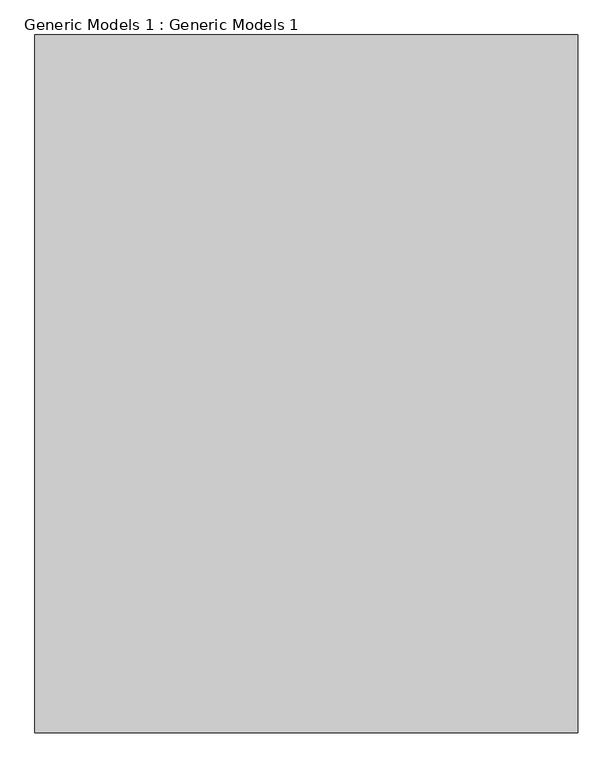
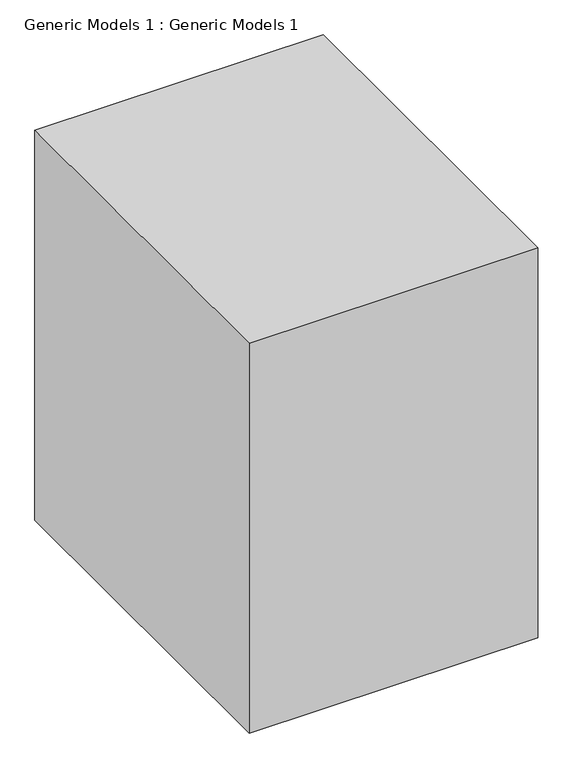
"""IFC4 building model written with IfcOpenShell, lengths in millimetres: proxy geometry, Generic Models 1 : Generic Models 1."""

from ifc_helpers import new_model, si_unit, origin, origin_with_axes, place, context, project, spatial, polyline, outline, extrude, source, transform, mapped, element, save


def generic_models_1_generic_models_1_4ab83a45(model_context):
    return source(origin(), model_context, "Body", "SweptSolid", [
        extrude(outline(polyline([(-12897.1824587, 3778.7758576), (-12897.1824587, 9178.7758576), (-8697.1824587, 9178.7758576), (-8697.1824587, 3778.7758576), (-12897.1824587, 3778.7758576)])), origin_with_axes(), (0.0, 0.0, 1.0), 6000.0),
    ])


if __name__ == "__main__":
    model = new_model("IFC4")
    model_context = context("Model", 3, world=origin())
    ifc_project = project(units=[si_unit("LENGTHUNIT", "METRE", prefix="MILLI")], contexts=[model_context])
    site = spatial("IfcSite", under=ifc_project)
    building = spatial("IfcBuilding", under=site)
    placement = place(None, origin())
    generic_models_1_generic_models_1_shape = generic_models_1_generic_models_1_4ab83a45(model_context)
    element("IfcBuildingElementProxy", 1, Name="Generic Models 1 : Generic Models 1", ObjectType="Generic Models 1 : Generic Models 1", at=placement, inside=building, context=model_context, shape_type="MappedRepresentation", body=[
        mapped(generic_models_1_generic_models_1_shape, transform((0.0, 0.0, 0.0), x_axis=(1.0, 0.0, 0.0), y_axis=(0.0, 1.0, 0.0), z_axis=(0.0, 0.0, 1.0))),
    ])
    save(model, "model.ifc")
